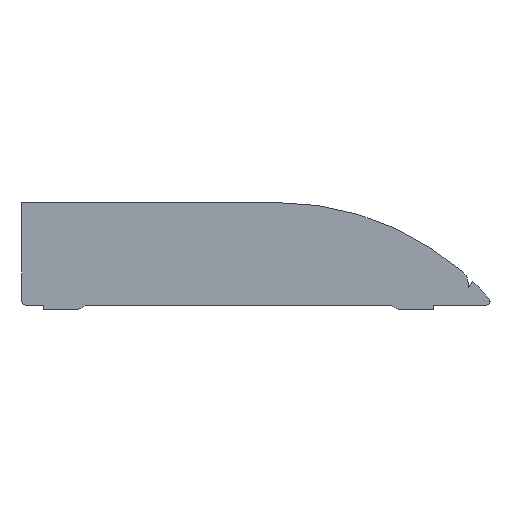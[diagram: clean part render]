
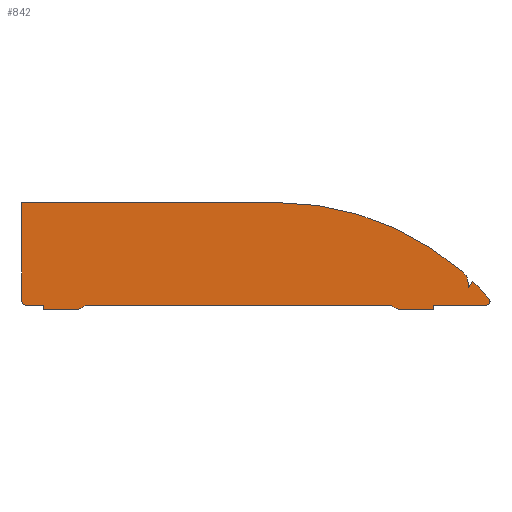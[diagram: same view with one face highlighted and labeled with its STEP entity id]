
A CAD part, left-side view. The second image highlights one B-rep face of the part: STEP entity #842.
In plain terms, the highlighted planar face has unit normal (-1, 0, 0).
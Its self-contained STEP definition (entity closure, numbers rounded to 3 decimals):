
#38=CIRCLE('',#909,6.);
#39=CIRCLE('',#910,6.);
#40=CIRCLE('',#911,2.);
#41=CIRCLE('',#912,136.5);
#42=CIRCLE('',#913,7.3);
#43=CIRCLE('',#914,136.5);
#44=CIRCLE('',#915,2.);
#83=ORIENTED_EDGE('',*,*,#327,.F.);
#84=ORIENTED_EDGE('',*,*,#328,.T.);
#85=ORIENTED_EDGE('',*,*,#329,.T.);
#86=ORIENTED_EDGE('',*,*,#330,.T.);
#87=ORIENTED_EDGE('',*,*,#299,.F.);
#88=ORIENTED_EDGE('',*,*,#331,.F.);
#89=ORIENTED_EDGE('',*,*,#332,.F.);
#90=ORIENTED_EDGE('',*,*,#333,.F.);
#91=ORIENTED_EDGE('',*,*,#334,.F.);
#92=ORIENTED_EDGE('',*,*,#335,.T.);
#93=ORIENTED_EDGE('',*,*,#336,.F.);
#94=ORIENTED_EDGE('',*,*,#337,.F.);
#95=ORIENTED_EDGE('',*,*,#338,.F.);
#96=ORIENTED_EDGE('',*,*,#339,.F.);
#97=ORIENTED_EDGE('',*,*,#340,.F.);
#98=ORIENTED_EDGE('',*,*,#307,.F.);
#99=ORIENTED_EDGE('',*,*,#341,.F.);
#100=ORIENTED_EDGE('',*,*,#342,.T.);
#299=EDGE_CURVE('',#422,#423,#504,.T.);
#307=EDGE_CURVE('',#430,#431,#512,.T.);
#327=EDGE_CURVE('',#448,#449,#525,.T.);
#328=EDGE_CURVE('',#448,#450,#526,.T.);
#329=EDGE_CURVE('',#450,#451,#527,.T.);
#330=EDGE_CURVE('',#451,#423,#38,.F.);
#331=EDGE_CURVE('',#452,#422,#39,.T.);
#332=EDGE_CURVE('',#453,#452,#528,.T.);
#333=EDGE_CURVE('',#454,#453,#529,.T.);
#334=EDGE_CURVE('',#455,#454,#530,.T.);
#335=EDGE_CURVE('',#455,#456,#40,.F.);
#336=EDGE_CURVE('',#457,#456,#41,.T.);
#337=EDGE_CURVE('',#458,#457,#531,.T.);
#338=EDGE_CURVE('',#459,#458,#532,.T.);
#339=EDGE_CURVE('',#460,#459,#42,.T.);
#340=EDGE_CURVE('',#431,#460,#43,.T.);
#341=EDGE_CURVE('',#461,#430,#533,.T.);
#342=EDGE_CURVE('',#461,#449,#44,.F.);
#422=VERTEX_POINT('',#1208);
#423=VERTEX_POINT('',#1209);
#430=VERTEX_POINT('',#1225);
#431=VERTEX_POINT('',#1226);
#448=VERTEX_POINT('',#1265);
#449=VERTEX_POINT('',#1266);
#450=VERTEX_POINT('',#1268);
#451=VERTEX_POINT('',#1270);
#452=VERTEX_POINT('',#1273);
#453=VERTEX_POINT('',#1275);
#454=VERTEX_POINT('',#1277);
#455=VERTEX_POINT('',#1279);
#456=VERTEX_POINT('',#1281);
#457=VERTEX_POINT('',#1283);
#458=VERTEX_POINT('',#1285);
#459=VERTEX_POINT('',#1287);
#460=VERTEX_POINT('',#1289);
#461=VERTEX_POINT('',#1292);
#504=LINE('',#1207,#605);
#512=LINE('',#1224,#613);
#525=LINE('',#1264,#626);
#526=LINE('',#1267,#627);
#527=LINE('',#1269,#628);
#528=LINE('',#1274,#629);
#529=LINE('',#1276,#630);
#530=LINE('',#1278,#631);
#531=LINE('',#1284,#632);
#532=LINE('',#1286,#633);
#533=LINE('',#1291,#634);
#605=VECTOR('',#970,1000.);
#613=VECTOR('',#980,1000.);
#626=VECTOR('',#1011,1000.);
#627=VECTOR('',#1012,1000.);
#628=VECTOR('',#1013,1000.);
#629=VECTOR('',#1018,1000.);
#630=VECTOR('',#1019,1000.);
#631=VECTOR('',#1020,1000.);
#632=VECTOR('',#1025,1000.);
#633=VECTOR('',#1026,1000.);
#634=VECTOR('',#1031,1000.);
#710=EDGE_LOOP('',(#83,#84,#85,#86,#87,#88,#89,#90,#91,#92,#93,#94,#95,
#96,#97,#98,#99,#100));
#759=FACE_BOUND('',#710,.T.);
#807=PLANE('',#908);
#842=ADVANCED_FACE('',(#759),#807,.F.);
#908=AXIS2_PLACEMENT_3D('',#1263,#1009,#1010);
#909=AXIS2_PLACEMENT_3D('',#1271,#1014,#1015);
#910=AXIS2_PLACEMENT_3D('',#1272,#1016,#1017);
#911=AXIS2_PLACEMENT_3D('',#1280,#1021,#1022);
#912=AXIS2_PLACEMENT_3D('',#1282,#1023,#1024);
#913=AXIS2_PLACEMENT_3D('',#1288,#1027,#1028);
#914=AXIS2_PLACEMENT_3D('',#1290,#1029,#1030);
#915=AXIS2_PLACEMENT_3D('',#1293,#1032,#1033);
#970=DIRECTION('',(0.,1.,0.));
#980=DIRECTION('',(0.,-1.,0.));
#1009=DIRECTION('',(1.,0.,0.));
#1010=DIRECTION('',(0.,1.,0.));
#1011=DIRECTION('',(0.,1.,0.));
#1012=DIRECTION('',(0.,0.,-1.));
#1013=DIRECTION('',(0.,-1.,0.));
#1014=DIRECTION('',(1.,0.,0.));
#1015=DIRECTION('',(0.,1.,0.));
#1016=DIRECTION('',(1.,0.,0.));
#1017=DIRECTION('',(0.,1.,0.));
#1018=DIRECTION('',(0.,1.,0.));
#1019=DIRECTION('',(0.,0.,-1.));
#1020=DIRECTION('',(0.,1.,0.));
#1021=DIRECTION('',(1.,0.,0.));
#1022=DIRECTION('',(0.,1.,0.));
#1023=DIRECTION('',(1.,0.,0.));
#1024=DIRECTION('',(0.,1.,0.));
#1025=DIRECTION('',(0.,-0.5,0.866));
#1026=DIRECTION('',(0.,-0.087,-0.996));
#1027=DIRECTION('',(1.,0.,0.));
#1028=DIRECTION('',(0.,1.,0.));
#1029=DIRECTION('',(1.,0.,0.));
#1030=DIRECTION('',(0.,1.,0.));
#1031=DIRECTION('',(0.,0.,1.));
#1032=DIRECTION('',(1.,0.,0.));
#1033=DIRECTION('',(0.,1.,0.));
#1207=CARTESIAN_POINT('',(-1229.,-171.594,0.));
#1208=CARTESIAN_POINT('',(-1229.,-121.228,0.));
#1209=CARTESIAN_POINT('',(-1229.,27.946,0.));
#1224=CARTESIAN_POINT('',(-1229.,66.,50.));
#1225=CARTESIAN_POINT('',(-1229.,58.818,50.));
#1226=CARTESIAN_POINT('',(-1229.,-66.,50.));
#1263=CARTESIAN_POINT('',(-1229.,66.,-86.5));
#1264=CARTESIAN_POINT('',(-1229.,-171.594,0.));
#1265=CARTESIAN_POINT('',(-1229.,48.518,0.));
#1266=CARTESIAN_POINT('',(-1229.,56.818,0.));
#1267=CARTESIAN_POINT('',(-1229.,48.518,0.));
#1268=CARTESIAN_POINT('',(-1229.,48.518,-2.));
#1269=CARTESIAN_POINT('',(-1229.,48.518,-2.));
#1270=CARTESIAN_POINT('',(-1229.,32.418,-2.));
#1271=CARTESIAN_POINT('',(-1229.,32.418,4.));
#1272=CARTESIAN_POINT('',(-1229.,-125.7,4.));
#1273=CARTESIAN_POINT('',(-1229.,-125.7,-2.));
#1274=CARTESIAN_POINT('',(-1229.,-141.8,-2.));
#1275=CARTESIAN_POINT('',(-1229.,-141.8,-2.));
#1276=CARTESIAN_POINT('',(-1229.,-141.8,0.));
#1277=CARTESIAN_POINT('',(-1229.,-141.8,0.));
#1278=CARTESIAN_POINT('',(-1229.,-171.594,0.));
#1279=CARTESIAN_POINT('',(-1229.,-167.282,0.));
#1280=CARTESIAN_POINT('',(-1229.,-167.282,2.));
#1281=CARTESIAN_POINT('',(-1229.,-168.788,3.316));
#1282=CARTESIAN_POINT('',(-1229.,-66.,-86.5));
#1283=CARTESIAN_POINT('',(-1229.,-160.759,11.75));
#1284=CARTESIAN_POINT('',(-1229.,-158.852,8.447));
#1285=CARTESIAN_POINT('',(-1229.,-158.852,8.447));
#1286=CARTESIAN_POINT('',(-1229.,-158.616,11.136));
#1287=CARTESIAN_POINT('',(-1229.,-158.616,11.136));
#1288=CARTESIAN_POINT('',(-1229.,-151.344,10.5));
#1289=CARTESIAN_POINT('',(-1229.,-156.166,15.981));
#1290=CARTESIAN_POINT('',(-1229.,-66.,-86.5));
#1291=CARTESIAN_POINT('',(-1229.,58.818,-86.5));
#1292=CARTESIAN_POINT('',(-1229.,58.818,2.));
#1293=CARTESIAN_POINT('',(-1229.,56.818,2.));
